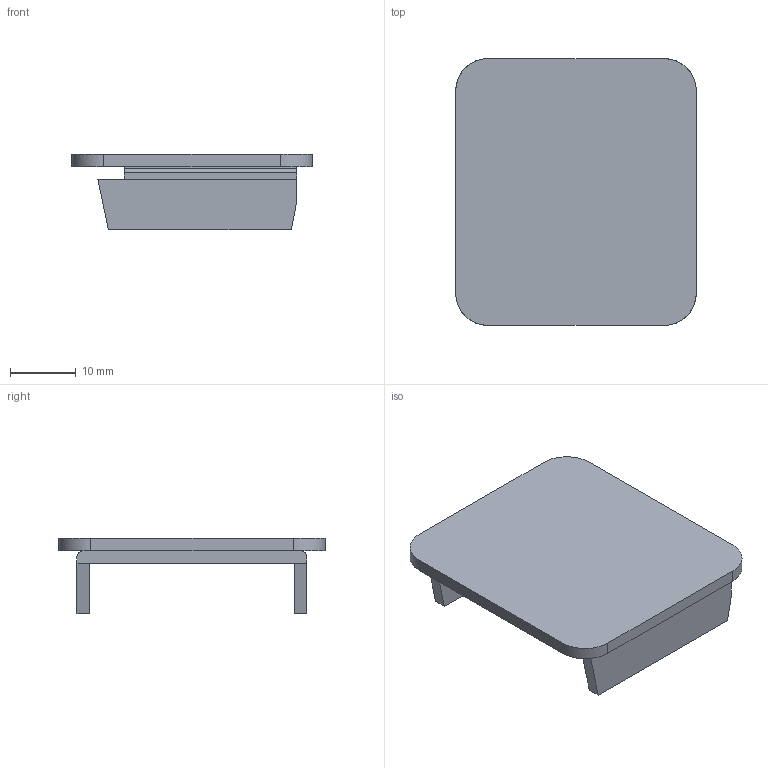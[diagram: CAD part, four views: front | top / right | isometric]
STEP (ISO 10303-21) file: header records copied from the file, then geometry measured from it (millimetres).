
FILE_DESCRIPTION(('TurboCAD Mac Pro'),'Build 980');
FILE_NAME('P3280W.stp',' ',(''),(''),'ACIS Interop','IMSI','TurboCAD Mac Pro BY IMSI, INCORPORATED');
FILE_SCHEMA(('automotive_design'));
Length unit declared in the file: inch
Products named in the file (3): 1; 2; 3
Bounding box: 36.51 x 40.48 x 11.44 mm (x, y, z)
Volume: 5357.3 mm3; surface area: 4667 mm2
Topology: 3 solids, 3 shells, 33 faces, 78 edges, 52 vertices
Faces by surface type: plane 25, cylinder 4, bspline 4
Entity records: 1298 total; most frequent: CARTESIAN_POINT 218, ORIENTED_EDGE 156, DIRECTION 142, EDGE_CURVE 78, LINE 62, VECTOR 62, VERTEX_POINT 52, AXIS2_PLACEMENT_3D 40
